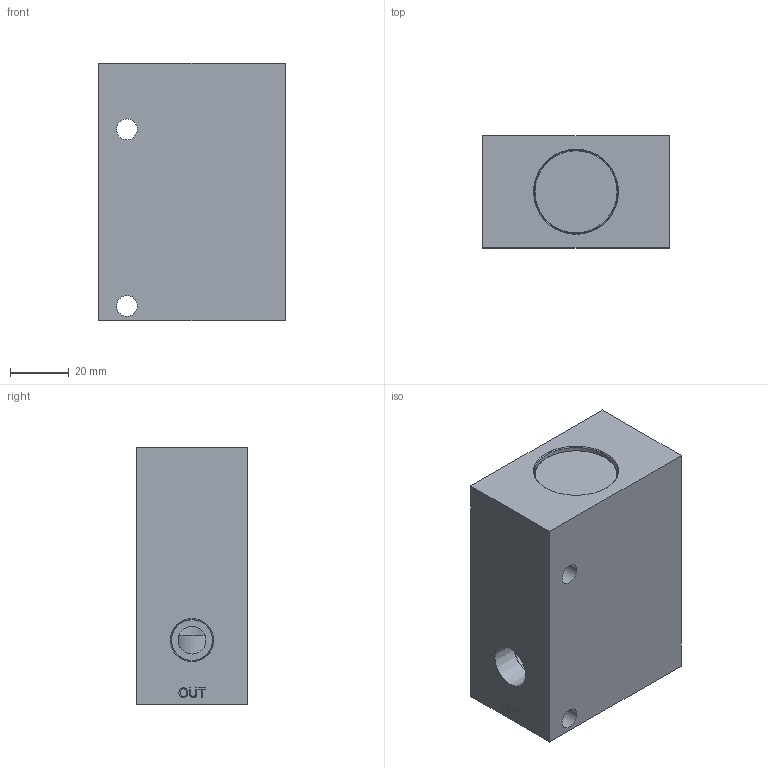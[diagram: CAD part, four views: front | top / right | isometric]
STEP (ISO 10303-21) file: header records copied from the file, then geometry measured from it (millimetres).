
FILE_DESCRIPTION(/* description */ (''),/* implementation_level */ '2;1');
FILE_NAME(/* name */ 'L:\ALADCO\Advertising\3D Content\Valves\Step Files - 2014-11-19 thru Present\42380X.stp',/* time_stamp */ '2014-11-19T16:27:53-06:00',/* author */ ('dmatz'),/* organization */ (''),/* preprocessor_version */ 'ST-DEVELOPER v15.2',/* originating_system */ 'Autodesk Inventor 2014',/* authorisation */ '');
FILE_SCHEMA (('AUTOMOTIVE_DESIGN { 1 0 10303 214 3 1 1 }'));
Length unit declared in the file: inch
Products named in the file (4): 553800NPTF; 321002; 301076; 523801
Bounding box: 63.5 x 38.1 x 87.99 mm (x, y, z)
Volume: 174156.8 mm3; surface area: 39222.1 mm2
Topology: 3 solids, 3 shells, 170 faces, 396 edges, 260 vertices
Faces by surface type: plane 95, bspline 26, cylinder 24, cone 16, torus 9
Full cylindrical faces by diameter (mm): 1.499 x1, 7.112 x2, 9.144 x1, 9.525 x2, 10.719 x1, 12.7 x1, 13.081 x1, 13.894 x2, 15.081 x1, 17.577 x1, 22.149 x1, 24.409 x1, 24.435 x1, 25.4 x2, 28.524 x4, 28.575 x2
Entity records: 5028 total; most frequent: CARTESIAN_POINT 1322, ORIENTED_EDGE 654, DIRECTION 646, EDGE_CURVE 327, EDGE_LOOP 262, VERTEX_POINT 243, AXIS2_PLACEMENT_3D 223, LINE 200
